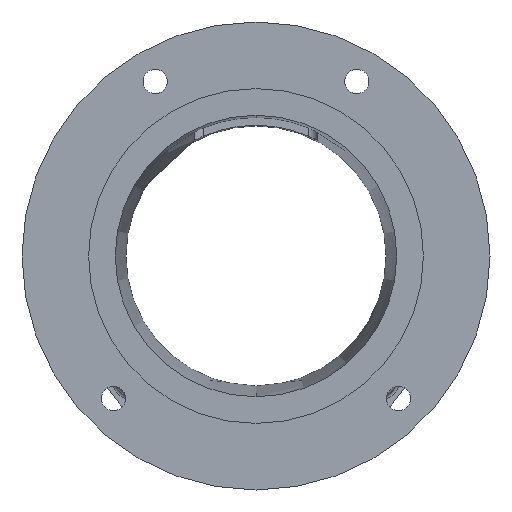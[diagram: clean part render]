
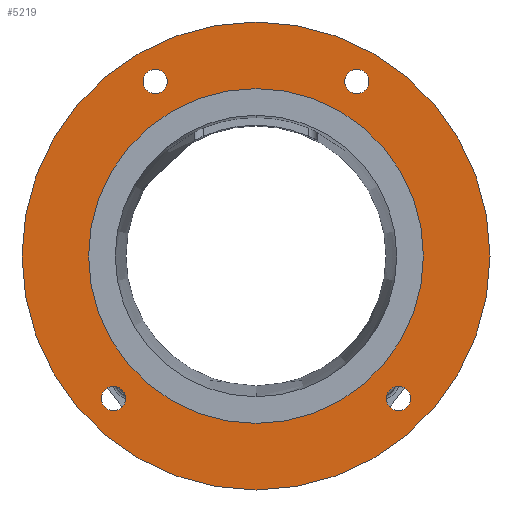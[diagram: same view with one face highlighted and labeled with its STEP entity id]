
A CAD part, front view. The second image highlights one B-rep face of the part: STEP entity #5219.
In plain terms, the highlighted planar face has unit normal (0, -1, 0).
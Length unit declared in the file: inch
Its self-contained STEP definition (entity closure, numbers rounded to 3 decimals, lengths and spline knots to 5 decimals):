
#1 = VERTEX_POINT ( 'NONE', #3759 ) ;
#83 = EDGE_CURVE ( 'NONE', #1, #1477, #3643, .T. ) ;
#101 = EDGE_LOOP ( 'NONE', ( #4134, #5366 ) ) ;
#134 = FACE_BOUND ( 'NONE', #5996, .T. ) ;
#326 = DIRECTION ( 'NONE',  ( 0., 0., -1. ) ) ;
#338 = DIRECTION ( 'NONE',  ( 0., -1., 0. ) ) ;
#409 = AXIS2_PLACEMENT_3D ( 'NONE', #816, #338, #326 ) ;
#415 = CARTESIAN_POINT ( 'NONE',  ( 0., 0., -4.5 ) ) ;
#531 = VERTEX_POINT ( 'NONE', #1914 ) ;
#627 = CIRCLE ( 'NONE', #1476, 0.23438 ) ;
#816 = CARTESIAN_POINT ( 'NONE',  ( 1.9375, 0., 3.35585 ) ) ;
#906 = ORIENTED_EDGE ( 'NONE', *, *, #7083, .T. ) ;
#1170 = CIRCLE ( 'NONE', #3648, 4.5 ) ;
#1172 = EDGE_CURVE ( 'NONE', #4042, #531, #4364, .T. ) ;
#1252 = EDGE_LOOP ( 'NONE', ( #6021, #5486 ) ) ;
#1347 = VERTEX_POINT ( 'NONE', #6372 ) ;
#1447 = CARTESIAN_POINT ( 'NONE',  ( 2.74004, 0., -2.74004 ) ) ;
#1450 = DIRECTION ( 'NONE',  ( 0., -1., 0. ) ) ;
#1456 = DIRECTION ( 'NONE',  ( 0., 0., -1. ) ) ;
#1467 = ORIENTED_EDGE ( 'NONE', *, *, #3497, .F. ) ;
#1476 = AXIS2_PLACEMENT_3D ( 'NONE', #1530, #5595, #2163 ) ;
#1477 = VERTEX_POINT ( 'NONE', #4674 ) ;
#1530 = CARTESIAN_POINT ( 'NONE',  ( -2.74004, 0., -2.74004 ) ) ;
#1655 = AXIS2_PLACEMENT_3D ( 'NONE', #7320, #4970, #7290 ) ;
#1746 = ORIENTED_EDGE ( 'NONE', *, *, #3738, .T. ) ;
#1914 = CARTESIAN_POINT ( 'NONE',  ( 1.9375, 0., 3.59022 ) ) ;
#1978 = FACE_BOUND ( 'NONE', #101, .T. ) ;
#2074 = DIRECTION ( 'NONE',  ( 0., 1., 0. ) ) ;
#2088 = CIRCLE ( 'NONE', #2298, 4.5 ) ;
#2163 = DIRECTION ( 'NONE',  ( 0., 0., -1. ) ) ;
#2176 = EDGE_CURVE ( 'NONE', #4923, #3175, #7223, .T. ) ;
#2247 = ORIENTED_EDGE ( 'NONE', *, *, #4883, .F. ) ;
#2266 = ORIENTED_EDGE ( 'NONE', *, *, #7217, .F. ) ;
#2298 = AXIS2_PLACEMENT_3D ( 'NONE', #5598, #5574, #5304 ) ;
#2452 = CIRCLE ( 'NONE', #5473, 0.23438 ) ;
#2664 = CIRCLE ( 'NONE', #1655, 0.23438 ) ;
#2738 = CARTESIAN_POINT ( 'NONE',  ( -4.5, 0., 0. ) ) ;
#2820 = EDGE_CURVE ( 'NONE', #5310, #1347, #2664, .T. ) ;
#2837 = CIRCLE ( 'NONE', #6996, 3.2195 ) ;
#2877 = DIRECTION ( 'NONE',  ( 0., 0., -1. ) ) ;
#2885 = EDGE_LOOP ( 'NONE', ( #906, #1746 ) ) ;
#2902 = DIRECTION ( 'NONE',  ( 0., -1., 0. ) ) ;
#2904 = DIRECTION ( 'NONE',  ( 0., -1., 0. ) ) ;
#2935 = CARTESIAN_POINT ( 'NONE',  ( 0., 0., 0. ) ) ;
#2960 = CARTESIAN_POINT ( 'NONE',  ( 0., 0., 3.2195 ) ) ;
#3126 = CARTESIAN_POINT ( 'NONE',  ( 0., 0., 0. ) ) ;
#3166 = VERTEX_POINT ( 'NONE', #6082 ) ;
#3171 = PLANE ( 'NONE',  #4760 ) ;
#3175 = VERTEX_POINT ( 'NONE', #6472 ) ;
#3215 = EDGE_CURVE ( 'NONE', #531, #4042, #5601, .T. ) ;
#3256 = DIRECTION ( 'NONE',  ( 0., 0., 1. ) ) ;
#3276 = CARTESIAN_POINT ( 'NONE',  ( 1.9375, 0., 3.12147 ) ) ;
#3320 = EDGE_LOOP ( 'NONE', ( #4663, #6248 ) ) ;
#3338 = AXIS2_PLACEMENT_3D ( 'NONE', #1447, #1450, #1456 ) ;
#3388 = DIRECTION ( 'NONE',  ( 0., 0., -1. ) ) ;
#3398 = DIRECTION ( 'NONE',  ( 0., -1., 0. ) ) ;
#3413 = CARTESIAN_POINT ( 'NONE',  ( 2.74004, 0., -2.74004 ) ) ;
#3440 = DIRECTION ( 'NONE',  ( 0., 0., -1. ) ) ;
#3461 = DIRECTION ( 'NONE',  ( 0., -1., 0. ) ) ;
#3473 = CARTESIAN_POINT ( 'NONE',  ( -1.9375, 0., 3.35585 ) ) ;
#3490 = CIRCLE ( 'NONE', #4260, 0.23438 ) ;
#3497 = EDGE_CURVE ( 'NONE', #3543, #3166, #2837, .T. ) ;
#3543 = VERTEX_POINT ( 'NONE', #2960 ) ;
#3643 = CIRCLE ( 'NONE', #6516, 0.23438 ) ;
#3648 = AXIS2_PLACEMENT_3D ( 'NONE', #3126, #6908, #3715 ) ;
#3715 = DIRECTION ( 'NONE',  ( 0., 0., -1. ) ) ;
#3738 = EDGE_CURVE ( 'NONE', #5750, #4406, #2088, .T. ) ;
#3759 = CARTESIAN_POINT ( 'NONE',  ( -1.9375, 0., 3.12147 ) ) ;
#4042 = VERTEX_POINT ( 'NONE', #3276 ) ;
#4134 = ORIENTED_EDGE ( 'NONE', *, *, #1172, .F. ) ;
#4260 = AXIS2_PLACEMENT_3D ( 'NONE', #6261, #2902, #6736 ) ;
#4364 = CIRCLE ( 'NONE', #409, 0.23438 ) ;
#4406 = VERTEX_POINT ( 'NONE', #415 ) ;
#4465 = CIRCLE ( 'NONE', #6700, 3.2195 ) ;
#4517 = ORIENTED_EDGE ( 'NONE', *, *, #2820, .F. ) ;
#4546 = FACE_OUTER_BOUND ( 'NONE', #2885, .T. ) ;
#4663 = ORIENTED_EDGE ( 'NONE', *, *, #83, .F. ) ;
#4674 = CARTESIAN_POINT ( 'NONE',  ( -1.9375, 0., 3.59022 ) ) ;
#4718 = FACE_BOUND ( 'NONE', #1252, .T. ) ;
#4760 = AXIS2_PLACEMENT_3D ( 'NONE', #2738, #2074, #3256 ) ;
#4883 = EDGE_CURVE ( 'NONE', #3166, #3543, #4465, .T. ) ;
#4923 = VERTEX_POINT ( 'NONE', #5078 ) ;
#4958 = CARTESIAN_POINT ( 'NONE',  ( 0., 0., 4.5 ) ) ;
#4970 = DIRECTION ( 'NONE',  ( 0., -1., 0. ) ) ;
#5078 = CARTESIAN_POINT ( 'NONE',  ( 2.74004, 0., -2.97441 ) ) ;
#5105 = DIRECTION ( 'NONE',  ( 0., 0., -1. ) ) ;
#5158 = DIRECTION ( 'NONE',  ( 0., -1., 0. ) ) ;
#5219 = ADVANCED_FACE ( 'NONE', ( #5986, #1978, #4718, #134, #6171, #4546 ), #3171, .F. ) ;
#5304 = DIRECTION ( 'NONE',  ( 0., 0., -1. ) ) ;
#5310 = VERTEX_POINT ( 'NONE', #5499 ) ;
#5366 = ORIENTED_EDGE ( 'NONE', *, *, #3215, .F. ) ;
#5382 = EDGE_LOOP ( 'NONE', ( #2247, #1467 ) ) ;
#5386 = CARTESIAN_POINT ( 'NONE',  ( 0., 0., 0. ) ) ;
#5408 = DIRECTION ( 'NONE',  ( 0., 0., -1. ) ) ;
#5438 = DIRECTION ( 'NONE',  ( 0., -1., 0. ) ) ;
#5473 = AXIS2_PLACEMENT_3D ( 'NONE', #3413, #3398, #3388 ) ;
#5482 = CARTESIAN_POINT ( 'NONE',  ( 1.9375, 0., 3.35585 ) ) ;
#5486 = ORIENTED_EDGE ( 'NONE', *, *, #6051, .F. ) ;
#5499 = CARTESIAN_POINT ( 'NONE',  ( -2.74004, 0., -2.97441 ) ) ;
#5574 = DIRECTION ( 'NONE',  ( 0., -1., 0. ) ) ;
#5595 = DIRECTION ( 'NONE',  ( 0., -1., 0. ) ) ;
#5598 = CARTESIAN_POINT ( 'NONE',  ( 0., 0., 0. ) ) ;
#5601 = CIRCLE ( 'NONE', #6134, 0.23438 ) ;
#5750 = VERTEX_POINT ( 'NONE', #4958 ) ;
#5986 = FACE_BOUND ( 'NONE', #3320, .T. ) ;
#5996 = EDGE_LOOP ( 'NONE', ( #4517, #2266 ) ) ;
#6021 = ORIENTED_EDGE ( 'NONE', *, *, #2176, .F. ) ;
#6051 = EDGE_CURVE ( 'NONE', #3175, #4923, #2452, .T. ) ;
#6082 = CARTESIAN_POINT ( 'NONE',  ( 0., 0., -3.2195 ) ) ;
#6134 = AXIS2_PLACEMENT_3D ( 'NONE', #5482, #5438, #5408 ) ;
#6171 = FACE_BOUND ( 'NONE', #5382, .T. ) ;
#6248 = ORIENTED_EDGE ( 'NONE', *, *, #7259, .F. ) ;
#6261 = CARTESIAN_POINT ( 'NONE',  ( -1.9375, 0., 3.35585 ) ) ;
#6372 = CARTESIAN_POINT ( 'NONE',  ( -2.74004, 0., -2.50566 ) ) ;
#6472 = CARTESIAN_POINT ( 'NONE',  ( 2.74004, 0., -2.50566 ) ) ;
#6516 = AXIS2_PLACEMENT_3D ( 'NONE', #3473, #3461, #3440 ) ;
#6700 = AXIS2_PLACEMENT_3D ( 'NONE', #5386, #5158, #5105 ) ;
#6736 = DIRECTION ( 'NONE',  ( 0., 0., -1. ) ) ;
#6908 = DIRECTION ( 'NONE',  ( 0., -1., 0. ) ) ;
#6996 = AXIS2_PLACEMENT_3D ( 'NONE', #2935, #2904, #2877 ) ;
#7083 = EDGE_CURVE ( 'NONE', #4406, #5750, #1170, .T. ) ;
#7217 = EDGE_CURVE ( 'NONE', #1347, #5310, #627, .T. ) ;
#7223 = CIRCLE ( 'NONE', #3338, 0.23438 ) ;
#7259 = EDGE_CURVE ( 'NONE', #1477, #1, #3490, .T. ) ;
#7290 = DIRECTION ( 'NONE',  ( 0., 0., -1. ) ) ;
#7320 = CARTESIAN_POINT ( 'NONE',  ( -2.74004, 0., -2.74004 ) ) ;
